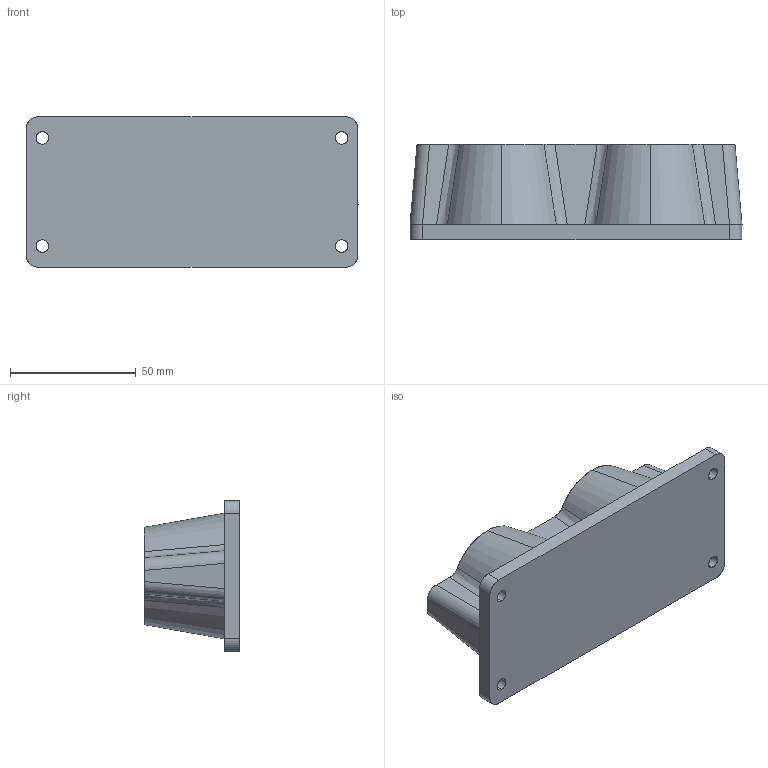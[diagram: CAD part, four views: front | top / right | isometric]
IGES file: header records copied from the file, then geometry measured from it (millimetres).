
Start section: SolidWorks IGES file using analytic representation for surfaces
Global section: file name: C:\Solidworks\omat tuotteet\Space charge models\Multigate\halkeavat\IGES\105929.IGS; native system: SolidWorks 2016; preprocessor: SolidWorks 2016; author: joni.lehtonen; date: 160215.092706; units: millimetre
Bounding box: 132 x 38 x 60 mm (x, y, z)
Surface area: 27210 mm2 (no closed solid volume)
Topology: 0 solids, 0 shells, 46 faces, 908 edges, 908 vertices
Faces by surface type: bspline 24, revolution 22
